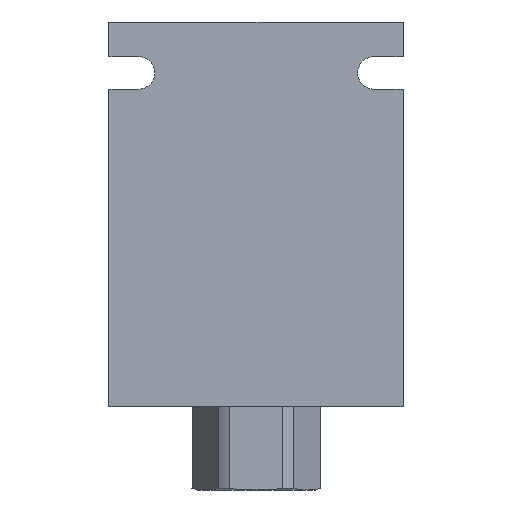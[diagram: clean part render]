
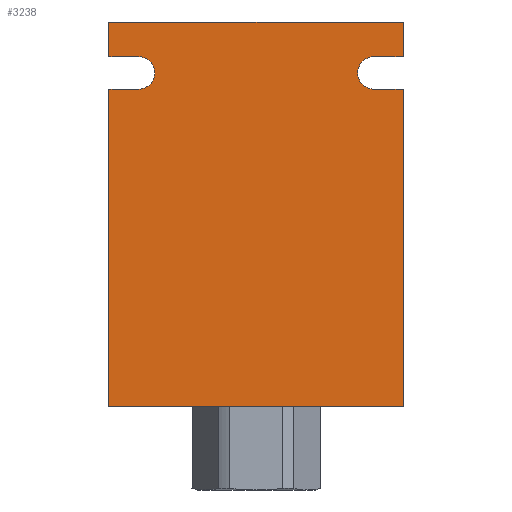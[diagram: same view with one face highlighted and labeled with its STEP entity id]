
A CAD part, front view. The second image highlights one B-rep face of the part: STEP entity #3238.
In plain terms, the highlighted planar face has unit normal (0, -1, 0) as drawn and (0, 1, 0) by its records, which use the part's own axes.
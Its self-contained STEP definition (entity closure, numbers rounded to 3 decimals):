
#365=LINE('',#6016,#488);
#369=LINE('',#6111,#492);
#371=LINE('',#6180,#494);
#378=LINE('',#6387,#501);
#382=LINE('',#6399,#505);
#383=LINE('',#6401,#506);
#387=LINE('',#6408,#510);
#388=LINE('',#6410,#511);
#390=LINE('',#6413,#513);
#393=LINE('',#6418,#516);
#488=VECTOR('',#5177,1000.);
#492=VECTOR('',#5185,1000.);
#494=VECTOR('',#5199,1000.);
#501=VECTOR('',#5282,1000.);
#505=VECTOR('',#5294,1000.);
#506=VECTOR('',#5297,1000.);
#510=VECTOR('',#5303,1000.);
#511=VECTOR('',#5306,1000.);
#513=VECTOR('',#5310,1000.);
#516=VECTOR('',#5317,1000.);
#1007=ORIENTED_EDGE('',*,*,#1725,.F.);
#1008=ORIENTED_EDGE('',*,*,#1724,.F.);
#1009=ORIENTED_EDGE('',*,*,#1626,.F.);
#1010=ORIENTED_EDGE('',*,*,#1720,.T.);
#1011=ORIENTED_EDGE('',*,*,#1719,.T.);
#1012=ORIENTED_EDGE('',*,*,#1716,.T.);
#1013=ORIENTED_EDGE('',*,*,#1713,.T.);
#1014=ORIENTED_EDGE('',*,*,#1593,.T.);
#1015=ORIENTED_EDGE('',*,*,#1730,.T.);
#1016=ORIENTED_EDGE('',*,*,#1651,.F.);
#1017=ORIENTED_EDGE('',*,*,#1727,.F.);
#1018=ORIENTED_EDGE('',*,*,#1707,.F.);
#1593=EDGE_CURVE('',#2002,#2004,#365,.T.);
#1626=EDGE_CURVE('',#2037,#2035,#369,.T.);
#1651=EDGE_CURVE('',#2061,#2063,#371,.T.);
#1707=EDGE_CURVE('',#2117,#2118,#2329,.T.);
#1713=EDGE_CURVE('',#2121,#2002,#378,.T.);
#1716=EDGE_CURVE('',#2123,#2121,#2332,.F.);
#1719=EDGE_CURVE('',#2125,#2123,#382,.T.);
#1720=EDGE_CURVE('',#2037,#2125,#383,.T.);
#1724=EDGE_CURVE('',#2035,#2128,#387,.T.);
#1725=EDGE_CURVE('',#2128,#2117,#388,.T.);
#1727=EDGE_CURVE('',#2118,#2061,#390,.T.);
#1730=EDGE_CURVE('',#2004,#2063,#393,.T.);
#2002=VERTEX_POINT('',#6011);
#2004=VERTEX_POINT('',#6015);
#2035=VERTEX_POINT('',#6106);
#2037=VERTEX_POINT('',#6110);
#2061=VERTEX_POINT('',#6178);
#2063=VERTEX_POINT('',#6181);
#2117=VERTEX_POINT('',#6375);
#2118=VERTEX_POINT('',#6376);
#2121=VERTEX_POINT('',#6384);
#2123=VERTEX_POINT('',#6390);
#2125=VERTEX_POINT('',#6396);
#2128=VERTEX_POINT('',#6406);
#2329=CIRCLE('',#4683,3.5);
#2332=CIRCLE('',#4688,3.5);
#2529=EDGE_LOOP('',(#1007,#1008,#1009,#1010,#1011,#1012,#1013,#1014,#1015,
#1016,#1017,#1018));
#2855=FACE_BOUND('',#2529,.T.);
#3038=PLANE('',#4695);
#3238=ADVANCED_FACE('',(#2855),#3038,.T.);
#4683=AXIS2_PLACEMENT_3D('',#6374,#5272,#5273);
#4688=AXIS2_PLACEMENT_3D('',#6393,#5288,#5289);
#4695=AXIS2_PLACEMENT_3D('',#6417,#5315,#5316);
#5177=DIRECTION('',(1.,0.,0.));
#5185=DIRECTION('',(0.,0.,-1.));
#5199=DIRECTION('',(1.,0.,0.));
#5272=DIRECTION('',(0.,1.,0.));
#5273=DIRECTION('',(-1.,0.,0.));
#5282=DIRECTION('',(0.,0.,1.));
#5288=DIRECTION('',(0.,1.,0.));
#5289=DIRECTION('',(-1.,0.,0.));
#5294=DIRECTION('',(0.,0.,-1.));
#5297=DIRECTION('',(1.,0.,0.));
#5303=DIRECTION('',(1.,0.,0.));
#5306=DIRECTION('',(0.,0.,1.));
#5310=DIRECTION('',(0.,0.,-1.));
#5315=DIRECTION('',(0.,1.,0.));
#5316=DIRECTION('',(-1.,0.,0.));
#5317=DIRECTION('',(0.,0.,-1.));
#6011=CARTESIAN_POINT('',(-27.,19.05,63.5));
#6015=CARTESIAN_POINT('',(41.5,19.05,63.5));
#6016=CARTESIAN_POINT('',(-41.5,19.05,63.5));
#6106=CARTESIAN_POINT('',(-41.5,19.05,0.));
#6110=CARTESIAN_POINT('',(-41.5,19.05,63.5));
#6111=CARTESIAN_POINT('',(-41.5,19.05,63.5));
#6178=CARTESIAN_POINT('',(-27.,19.05,0.));
#6180=CARTESIAN_POINT('',(-41.5,19.05,0.));
#6181=CARTESIAN_POINT('',(41.5,19.05,0.));
#6374=CARTESIAN_POINT('',(-30.5,19.05,6.3));
#6375=CARTESIAN_POINT('',(-34.,19.05,6.3));
#6376=CARTESIAN_POINT('',(-27.,19.05,6.3));
#6384=CARTESIAN_POINT('',(-27.,19.05,57.1));
#6387=CARTESIAN_POINT('',(-27.,19.05,63.5));
#6390=CARTESIAN_POINT('',(-34.,19.05,57.1));
#6393=CARTESIAN_POINT('',(-30.5,19.05,57.1));
#6396=CARTESIAN_POINT('',(-34.,19.05,63.5));
#6399=CARTESIAN_POINT('',(-34.,19.05,63.5));
#6401=CARTESIAN_POINT('',(-41.5,19.05,63.5));
#6406=CARTESIAN_POINT('',(-34.,19.05,0.));
#6408=CARTESIAN_POINT('',(-41.5,19.05,0.));
#6410=CARTESIAN_POINT('',(-34.,19.05,63.5));
#6413=CARTESIAN_POINT('',(-27.,19.05,63.5));
#6417=CARTESIAN_POINT('',(-41.5,19.05,63.5));
#6418=CARTESIAN_POINT('',(41.5,19.05,63.5));
